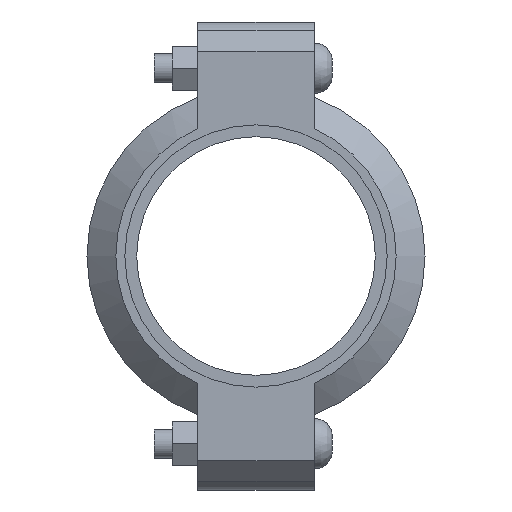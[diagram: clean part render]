
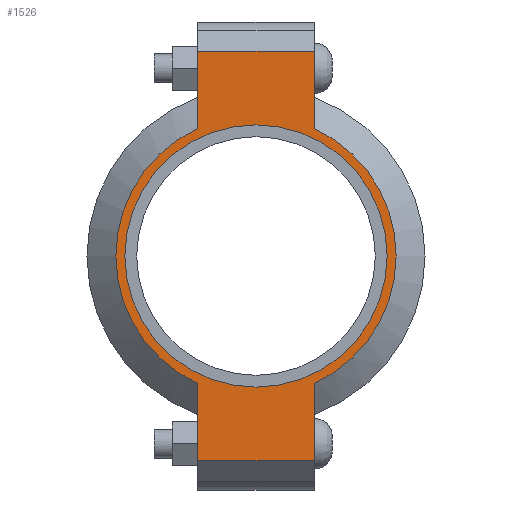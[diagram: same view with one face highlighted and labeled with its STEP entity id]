
A CAD part, left-side view. The second image highlights one B-rep face of the part: STEP entity #1526.
In plain terms, the highlighted planar face has unit normal (-1, 0, 0) as drawn and (0, 0, 1) by its records, which use the part's own axes.
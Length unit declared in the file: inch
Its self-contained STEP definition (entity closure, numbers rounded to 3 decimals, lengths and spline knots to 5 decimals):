
#150=LINE('',#2663,#243);
#158=LINE('',#2699,#251);
#165=LINE('',#2720,#258);
#174=LINE('',#2752,#267);
#175=LINE('',#2756,#268);
#176=LINE('',#2758,#269);
#243=VECTOR('',#2175,0.3937);
#251=VECTOR('',#2191,0.3937);
#258=VECTOR('',#2210,0.3937);
#267=VECTOR('',#2235,0.3937);
#268=VECTOR('',#2240,0.3937);
#269=VECTOR('',#2241,0.3937);
#325=FACE_BOUND('',#503,.T.);
#397=FACE_OUTER_BOUND('',#502,.T.);
#502=EDGE_LOOP('',(#1267,#1268,#1269,#1270,#1271,#1272,#1273,#1274));
#503=EDGE_LOOP('',(#1275));
#575=CIRCLE('',#1745,2.25);
#601=CIRCLE('',#1804,2.405);
#602=CIRCLE('',#1805,2.405);
#667=VERTEX_POINT('',#2479);
#710=VERTEX_POINT('',#2660);
#711=VERTEX_POINT('',#2662);
#722=VERTEX_POINT('',#2694);
#723=VERTEX_POINT('',#2698);
#730=VERTEX_POINT('',#2717);
#731=VERTEX_POINT('',#2719);
#741=VERTEX_POINT('',#2755);
#742=VERTEX_POINT('',#2757);
#823=EDGE_CURVE('',#667,#667,#575,.T.);
#884=EDGE_CURVE('',#711,#710,#150,.T.);
#898=EDGE_CURVE('',#723,#722,#158,.T.);
#908=EDGE_CURVE('',#731,#730,#165,.T.);
#923=EDGE_CURVE('',#723,#710,#174,.T.);
#924=EDGE_CURVE('',#722,#731,#601,.T.);
#925=EDGE_CURVE('',#741,#730,#175,.T.);
#926=EDGE_CURVE('',#741,#742,#176,.T.);
#927=EDGE_CURVE('',#742,#711,#602,.T.);
#1267=ORIENTED_EDGE('',*,*,#923,.F.);
#1268=ORIENTED_EDGE('',*,*,#898,.T.);
#1269=ORIENTED_EDGE('',*,*,#924,.T.);
#1270=ORIENTED_EDGE('',*,*,#908,.T.);
#1271=ORIENTED_EDGE('',*,*,#925,.F.);
#1272=ORIENTED_EDGE('',*,*,#926,.T.);
#1273=ORIENTED_EDGE('',*,*,#927,.T.);
#1274=ORIENTED_EDGE('',*,*,#884,.T.);
#1275=ORIENTED_EDGE('',*,*,#823,.T.);
#1368=PLANE('',#1803);
#1526=ADVANCED_FACE('',(#397,#325),#1368,.T.);
#1745=AXIS2_PLACEMENT_3D('',#2481,#2051,#2052);
#1803=AXIS2_PLACEMENT_3D('',#2753,#2236,#2237);
#1804=AXIS2_PLACEMENT_3D('',#2754,#2238,#2239);
#1805=AXIS2_PLACEMENT_3D('',#2759,#2242,#2243);
#2051=DIRECTION('center_axis',(0.,0.,-1.));
#2052=DIRECTION('ref_axis',(-1.,0.,0.));
#2175=DIRECTION('',(-1.,0.,0.));
#2191=DIRECTION('',(1.,0.,0.));
#2210=DIRECTION('',(1.,0.,0.));
#2235=DIRECTION('',(0.,1.,0.));
#2236=DIRECTION('center_axis',(0.,0.,1.));
#2237=DIRECTION('ref_axis',(1.,0.,0.));
#2238=DIRECTION('center_axis',(0.,0.,1.));
#2239=DIRECTION('ref_axis',(-1.,0.,0.));
#2240=DIRECTION('',(0.,-1.,0.));
#2241=DIRECTION('',(-1.,0.,0.));
#2242=DIRECTION('center_axis',(0.,0.,1.));
#2243=DIRECTION('ref_axis',(-1.,0.,0.));
#2479=CARTESIAN_POINT('',(2.25,0.,1.065));
#2481=CARTESIAN_POINT('Origin',(0.,0.,1.065));
#2660=CARTESIAN_POINT('',(-3.515,1.,1.065));
#2662=CARTESIAN_POINT('',(-2.18724,1.,1.065));
#2663=CARTESIAN_POINT('',(-4.015,1.,1.065));
#2694=CARTESIAN_POINT('',(-2.18724,-1.,1.065));
#2698=CARTESIAN_POINT('',(-3.515,-1.,1.065));
#2699=CARTESIAN_POINT('',(4.015,-1.,1.065));
#2717=CARTESIAN_POINT('',(3.515,-1.,1.065));
#2719=CARTESIAN_POINT('',(2.18724,-1.,1.065));
#2720=CARTESIAN_POINT('',(4.015,-1.,1.065));
#2752=CARTESIAN_POINT('',(-3.515,0.5,1.065));
#2753=CARTESIAN_POINT('Origin',(0.,0.,1.065));
#2754=CARTESIAN_POINT('Origin',(0.,0.,1.065));
#2755=CARTESIAN_POINT('',(3.515,1.,1.065));
#2756=CARTESIAN_POINT('',(3.515,-0.5,1.065));
#2757=CARTESIAN_POINT('',(2.18724,1.,1.065));
#2758=CARTESIAN_POINT('',(-4.015,1.,1.065));
#2759=CARTESIAN_POINT('Origin',(0.,0.,1.065));
